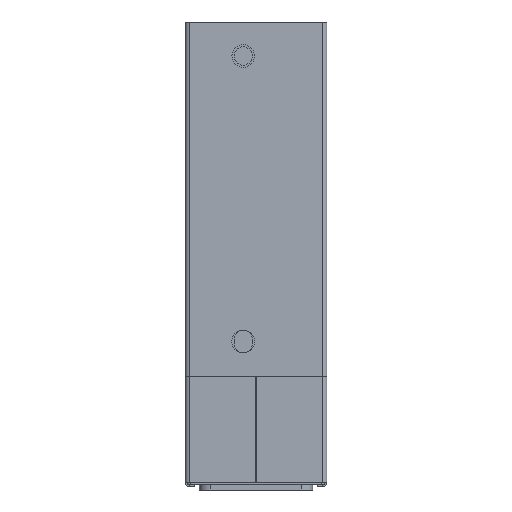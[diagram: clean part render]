
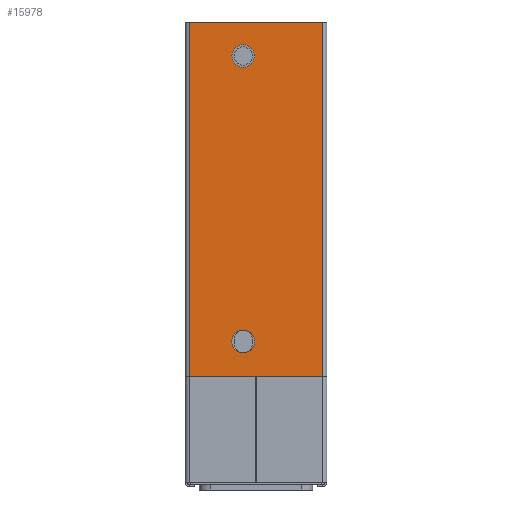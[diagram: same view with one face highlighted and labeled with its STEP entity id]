
A CAD part, front view. The second image highlights one B-rep face of the part: STEP entity #15978.
In plain terms, the highlighted planar face has unit normal (0, -1, 0).
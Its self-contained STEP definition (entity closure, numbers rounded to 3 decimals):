
#314 = LINE ( 'NONE', #315, #106327 ) ;
#315 = CARTESIAN_POINT ( 'NONE',  ( -23.5, 0., 62.5 ) ) ;
#316 = DIRECTION ( 'NONE',  ( 1., 0., 0. ) ) ;
#788 = CARTESIAN_POINT ( 'NONE',  ( 4.5, 0., 50.3 ) ) ;
#789 = DIRECTION ( 'NONE',  ( 0., -1., 0. ) ) ;
#790 = DIRECTION ( 'NONE',  ( 0., 0., -1. ) ) ;
#6541 = ORIENTED_EDGE ( 'NONE', *, *, #17686, .F. ) ;
#6543 = ORIENTED_EDGE ( 'NONE', *, *, #12164, .F. ) ;
#6545 = ORIENTED_EDGE ( 'NONE', *, *, #16741, .F. ) ;
#6546 = ORIENTED_EDGE ( 'NONE', *, *, #11969, .F. ) ;
#6547 = ORIENTED_EDGE ( 'NONE', *, *, #17687, .F. ) ;
#6549 = ORIENTED_EDGE ( 'NONE', *, *, #17688, .F. ) ;
#6551 = ORIENTED_EDGE ( 'NONE', *, *, #17689, .F. ) ;
#6553 = ORIENTED_EDGE ( 'NONE', *, *, #17195, .T. ) ;
#6555 = ORIENTED_EDGE ( 'NONE', *, *, #17631, .F. ) ;
#6557 = ORIENTED_EDGE ( 'NONE', *, *, #16611, .F. ) ;
#6559 = ORIENTED_EDGE ( 'NONE', *, *, #17685, .T. ) ;
#11969 = EDGE_CURVE ( 'NONE', #32248, #32245, #85924, .T. ) ;
#12164 = EDGE_CURVE ( 'NONE', #32231, #32228, #86118, .T. ) ;
#12421 = LINE ( 'NONE', #12426, #106887 ) ;
#12426 = CARTESIAN_POINT ( 'NONE',  ( -23.5, 0., -62.5 ) ) ;
#12429 = DIRECTION ( 'NONE',  ( 1., 0., 0. ) ) ;
#15978 = ADVANCED_FACE ( 'NONE', ( #103244, #103245, #103249 ), #103250, .F. ) ;
#16611 = EDGE_CURVE ( 'NONE', #30002, #30004, #314, .T. ) ;
#16741 = EDGE_CURVE ( 'NONE', #32245, #30078, #106470, .T. ) ;
#17195 = EDGE_CURVE ( 'NONE', #30439, #30433, #12421, .T. ) ;
#17631 = EDGE_CURVE ( 'NONE', #30004, #30433, #22114, .T. ) ;
#17685 = EDGE_CURVE ( 'NONE', #30002, #30439, #22322, .T. ) ;
#17686 = EDGE_CURVE ( 'NONE', #32228, #32231, #18788, .T. ) ;
#17687 = EDGE_CURVE ( 'NONE', #31389, #32248, #18790, .T. ) ;
#17688 = EDGE_CURVE ( 'NONE', #31379, #31389, #18794, .T. ) ;
#17689 = EDGE_CURVE ( 'NONE', #30078, #31379, #18781, .T. ) ;
#18657 = VECTOR ( 'NONE', #22116, 1000. ) ;
#18781 = CIRCLE ( 'NONE', #18803, 3.25 ) ;
#18786 = VECTOR ( 'NONE', #22324, 1000. ) ;
#18788 = CIRCLE ( 'NONE', #18792, 4. ) ;
#18790 = CIRCLE ( 'NONE', #18796, 3.25 ) ;
#18792 = AXIS2_PLACEMENT_3D ( 'NONE', #22326, #22327, #22328 ) ;
#18794 = CIRCLE ( 'NONE', #18799, 4. ) ;
#18796 = AXIS2_PLACEMENT_3D ( 'NONE', #22329, #22330, #22331 ) ;
#18799 = AXIS2_PLACEMENT_3D ( 'NONE', #22333, #22334, #22335 ) ;
#18803 = AXIS2_PLACEMENT_3D ( 'NONE', #22338, #22339, #22340 ) ;
#22114 = LINE ( 'NONE', #22115, #18657 ) ;
#22115 = CARTESIAN_POINT ( 'NONE',  ( 23.5, 0., 62.5 ) ) ;
#22116 = DIRECTION ( 'NONE',  ( 0., 0., -1. ) ) ;
#22322 = LINE ( 'NONE', #22323, #18786 ) ;
#22323 = CARTESIAN_POINT ( 'NONE',  ( -23.5, 0., 62.5 ) ) ;
#22324 = DIRECTION ( 'NONE',  ( 0., 0., -1. ) ) ;
#22326 = CARTESIAN_POINT ( 'NONE',  ( 4.5, 0., -50.5 ) ) ;
#22327 = DIRECTION ( 'NONE',  ( 0., -1., 0. ) ) ;
#22328 = DIRECTION ( 'NONE',  ( 0., 0., -1. ) ) ;
#22329 = CARTESIAN_POINT ( 'NONE',  ( 4.5, 0., 49.5 ) ) ;
#22330 = DIRECTION ( 'NONE',  ( 0., -1., 0. ) ) ;
#22331 = DIRECTION ( 'NONE',  ( 0., 0., -1. ) ) ;
#22333 = CARTESIAN_POINT ( 'NONE',  ( 4.5, 0., 50.3 ) ) ;
#22334 = DIRECTION ( 'NONE',  ( 0., -1., 0. ) ) ;
#22335 = DIRECTION ( 'NONE',  ( 0., 0., -1. ) ) ;
#22338 = CARTESIAN_POINT ( 'NONE',  ( 4.5, 0., 51.1 ) ) ;
#22339 = DIRECTION ( 'NONE',  ( 0., -1., 0. ) ) ;
#22340 = DIRECTION ( 'NONE',  ( 0., 0., -1. ) ) ;
#30002 = VERTEX_POINT ( 'NONE', #39275 ) ;
#30004 = VERTEX_POINT ( 'NONE', #39276 ) ;
#30078 = VERTEX_POINT ( 'NONE', #39316 ) ;
#30433 = VERTEX_POINT ( 'NONE', #39509 ) ;
#30439 = VERTEX_POINT ( 'NONE', #39512 ) ;
#31379 = VERTEX_POINT ( 'NONE', #40239 ) ;
#31389 = VERTEX_POINT ( 'NONE', #40249 ) ;
#32228 = VERTEX_POINT ( 'NONE', #41562 ) ;
#32231 = VERTEX_POINT ( 'NONE', #41564 ) ;
#32245 = VERTEX_POINT ( 'NONE', #41574 ) ;
#32248 = VERTEX_POINT ( 'NONE', #41576 ) ;
#33488 = EDGE_LOOP ( 'NONE', ( #6553, #6555, #6557, #6559 ) ) ;
#33522 = EDGE_LOOP ( 'NONE', ( #6545, #6546, #6547, #6549, #6551 ) ) ;
#33560 = EDGE_LOOP ( 'NONE', ( #6541, #6543 ) ) ;
#39275 = CARTESIAN_POINT ( 'NONE',  ( -23.5, 0., 62.5 ) ) ;
#39276 = CARTESIAN_POINT ( 'NONE',  ( 23.5, 0., 62.5 ) ) ;
#39316 = CARTESIAN_POINT ( 'NONE',  ( 5.754, 0., 54.098 ) ) ;
#39509 = CARTESIAN_POINT ( 'NONE',  ( 23.5, 0., -62.5 ) ) ;
#39512 = CARTESIAN_POINT ( 'NONE',  ( -23.5, 0., -62.5 ) ) ;
#40239 = CARTESIAN_POINT ( 'NONE',  ( 3.246, 0., 54.098 ) ) ;
#40249 = CARTESIAN_POINT ( 'NONE',  ( 3.246, 0., 46.502 ) ) ;
#41562 = CARTESIAN_POINT ( 'NONE',  ( 4.5, 0., -54.5 ) ) ;
#41564 = CARTESIAN_POINT ( 'NONE',  ( 4.5, 0., -46.5 ) ) ;
#41574 = CARTESIAN_POINT ( 'NONE',  ( 5.754, 0., 46.502 ) ) ;
#41576 = CARTESIAN_POINT ( 'NONE',  ( 4.5, 0., 46.25 ) ) ;
#85924 = CIRCLE ( 'NONE', #85942, 3.25 ) ;
#85942 = AXIS2_PLACEMENT_3D ( 'NONE', #86871, #86872, #86873 ) ;
#86118 = CIRCLE ( 'NONE', #86120, 4. ) ;
#86120 = AXIS2_PLACEMENT_3D ( 'NONE', #89330, #89331, #89332 ) ;
#86871 = CARTESIAN_POINT ( 'NONE',  ( 4.5, 0., 49.5 ) ) ;
#86872 = DIRECTION ( 'NONE',  ( 0., -1., 0. ) ) ;
#86873 = DIRECTION ( 'NONE',  ( 0., 0., -1. ) ) ;
#89330 = CARTESIAN_POINT ( 'NONE',  ( 4.5, 0., -50.5 ) ) ;
#89331 = DIRECTION ( 'NONE',  ( 0., -1., 0. ) ) ;
#89332 = DIRECTION ( 'NONE',  ( 0., 0., -1. ) ) ;
#94121 = AXIS2_PLACEMENT_3D ( 'NONE', #103243, #103251, #103252 ) ;
#103243 = CARTESIAN_POINT ( 'NONE',  ( -23.5, 0., 62.5 ) ) ;
#103244 = FACE_BOUND ( 'NONE', #33560, .T. ) ;
#103245 = FACE_BOUND ( 'NONE', #33522, .T. ) ;
#103249 = FACE_OUTER_BOUND ( 'NONE', #33488, .T. ) ;
#103250 = PLANE ( 'NONE',  #94121 ) ;
#103251 = DIRECTION ( 'NONE',  ( 0., 1., 0. ) ) ;
#103252 = DIRECTION ( 'NONE',  ( 0., 0., 1. ) ) ;
#106327 = VECTOR ( 'NONE', #316, 1000. ) ;
#106470 = CIRCLE ( 'NONE', #106472, 4. ) ;
#106472 = AXIS2_PLACEMENT_3D ( 'NONE', #788, #789, #790 ) ;
#106887 = VECTOR ( 'NONE', #12429, 1000. ) ;
